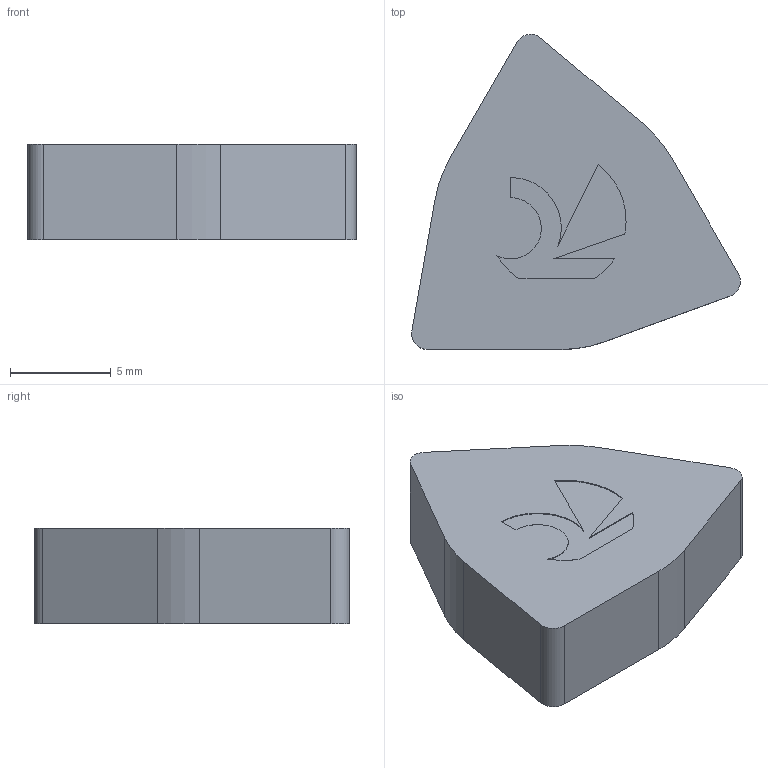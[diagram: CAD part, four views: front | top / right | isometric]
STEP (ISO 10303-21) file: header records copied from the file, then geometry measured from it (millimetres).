
FILE_DESCRIPTION(('no description'),'unknown implementation level');
FILE_NAME('solidDuNsB263dftmjVy00j5UxUsk2Os_1.STP',' ',('CIMSOURCE GmbH'),('CADClick - KiM GmbH - www.kimweb.de'),'unknown preprocess','ACIS','unknown authorization');
FILE_SCHEMA(('automotive_design'));
Length unit declared in the file: millimetre
Products named in the file (1): CUT
Bounding box: 16.33 x 15.66 x 4.76 mm (x, y, z)
Volume: 783.5 mm3; surface area: 571.5 mm2
Topology: 1 solids, 1 shells, 26 faces, 69 edges, 46 vertices
Faces by surface type: plane 14, cylinder 12
Entity records: 1634 total; most frequent: DIRECTION 151, CARTESIAN_POINT 144, STYLED_ITEM 142, PRESENTATION_STYLE_ASSIGNMENT 142, COLOUR_RGB 142, ORIENTED_EDGE 138, EDGE_CURVE 69, CURVE_STYLE 69
